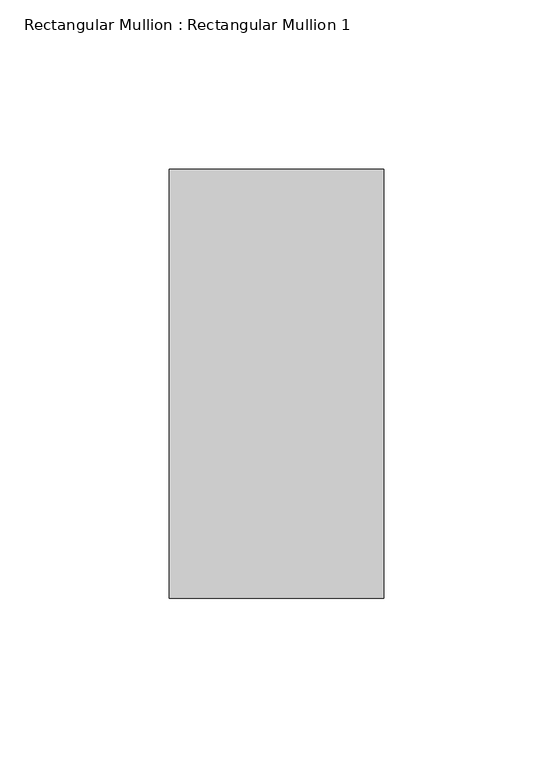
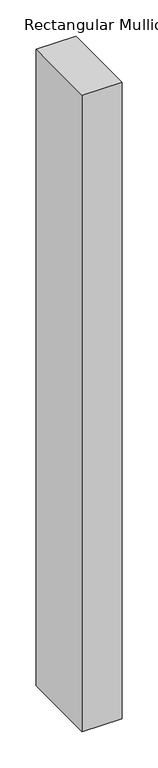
"""IFC4 building model written with IfcOpenShell, lengths in millimetres: member geometry, Rectangular Mullion : Rectangular Mullion 1."""

import ifcopenshell
import ifcopenshell.guid

model = None  # the IFC model being written
_history = None  # IfcOwnerHistory: only IFC2X3 demands one
_inside = {}  # id of a spatial element -> (the spatial element, [elements in it])
_under = {}  # id of a project, library or spatial element -> (it, [spatial elements below it])
_declared = {}  # id of a project -> (the project, [libraries it declares])
_typed = {}  # id of a type object -> (the type object, [elements of that type])
_made_of = {}  # id of a material, layer set ... -> (it, [elements and type objects made of it])


def new_model(schema):
    """Start an empty IFC model of exactly this schema.

    Asked for "IFC4X3", IfcOpenShell would pick the latest addendum, in which some entities
    have other attributes; the version numbers below select the first issue.
    IFC2X3 requires an IfcOwnerHistory on every rooted entity: one is made here for all.
    """
    global model, _history
    if schema == "IFC4X3":
        model = ifcopenshell.file(schema_version=(4, 3, 0, 0))
    else:
        model = ifcopenshell.file(schema=schema)
    _inside.clear()
    _under.clear()
    _declared.clear()
    _typed.clear()
    _made_of.clear()
    _history = None
    if model.schema == "IFC2X3":
        org = make("IfcOrganization", Name="unknown")
        user = make(
            "IfcPersonAndOrganization",
            ThePerson=make("IfcPerson", FamilyName="unknown"),
            TheOrganization=org,
        )
        app = make(
            "IfcApplication",
            ApplicationDeveloper=org,
            Version="unknown",
            ApplicationFullName="unknown",
            ApplicationIdentifier="unknown",
        )
        _history = make(
            "IfcOwnerHistory",
            OwningUser=user,
            OwningApplication=app,
            ChangeAction="ADDED",
            CreationDate=0,
        )
    return model


def make(cls, **values):
    """One entity of the class cls with the attributes given. An attribute that is None is left unset."""
    return model.create_entity(
        cls, **{name: value for name, value in values.items() if value is not None}
    )


def rooted(cls, **values):
    """An entity with a GlobalId (a new one), such as an element, a storey or a relation."""
    return make(cls, GlobalId=ifcopenshell.guid.new(), OwnerHistory=_history, **values)


def si_unit(unit_type, name, prefix=None):
    """IfcSIUnit, for example si_unit("LENGTHUNIT", "METRE", prefix="MILLI")."""
    return make("IfcSIUnit", UnitType=unit_type, Prefix=prefix, Name=name)


def assignment(units):
    """IfcUnitAssignment: the units of a project."""
    return None if units is None else make("IfcUnitAssignment", Units=units)


def point(xyz):
    """IfcCartesianPoint."""
    return None if xyz is None else make("IfcCartesianPoint", Coordinates=xyz)


def direction(xyz):
    """IfcDirection."""
    return None if xyz is None else make("IfcDirection", DirectionRatios=xyz)


def frame(location, z_axis=None, x_axis=None):
    """IfcAxis2Placement3D, a coordinate frame: its origin and axes. An axis left out is left unset."""
    return make(
        "IfcAxis2Placement3D",
        Location=point(location),
        Axis=direction(z_axis),
        RefDirection=direction(x_axis),
    )


def origin():
    """The frame at (0, 0, 0) with its axes left unset."""
    return frame((0.0, 0.0, 0.0))


def place(relative_to, where):
    """IfcLocalPlacement: puts the frame where relative to a parent placement (None: the world)."""
    return make(
        "IfcLocalPlacement", PlacementRelTo=relative_to, RelativePlacement=where
    )


def context(
    kind, dimensions, precision=None, world=None, true_north=None, identifier=None
):
    """IfcGeometricRepresentationContext, for example the 3D "Model" context."""
    return make(
        "IfcGeometricRepresentationContext",
        ContextIdentifier=identifier,
        ContextType=kind,
        CoordinateSpaceDimension=dimensions,
        Precision=precision,
        WorldCoordinateSystem=world,
        TrueNorth=true_north,
    )


def project(units=None, contexts=None):
    """IfcProject with its units and contexts."""
    return rooted(
        "IfcProject",
        Name="project",
        RepresentationContexts=contexts,
        UnitsInContext=assignment(units),
    )


def spatial(cls, under=None, at=None, **own):
    """A site, building, storey or space (cls), placed at a placement, below another one or the project."""
    s = rooted(cls, ObjectPlacement=at, **own)
    if under is not None:
        _under.setdefault(under.id(), (under, []))[1].append(s)
    return s


def polyline(points):
    """IfcPolyline through the points."""
    return make("IfcPolyline", Points=[point(p) for p in points])


def outline(outer, holes=None, kind="AREA"):
    """IfcArbitraryClosedProfileDef: a profile drawn as a closed curve; with holes, ...WithVoids."""
    if holes is None:
        return make("IfcArbitraryClosedProfileDef", ProfileType=kind, OuterCurve=outer)
    return make(
        "IfcArbitraryProfileDefWithVoids",
        ProfileType=kind,
        OuterCurve=outer,
        InnerCurves=holes,
    )


def extrude(swept, where, along, depth):
    """IfcExtrudedAreaSolid: the profile swept, set in the frame where, extruded along a direction by depth."""
    return make(
        "IfcExtrudedAreaSolid",
        SweptArea=swept,
        Position=where,
        ExtrudedDirection=direction(along),
        Depth=depth,
    )


def shape(context_of_items, identifier, shape_type, items):
    """IfcShapeRepresentation: the items that make up one representation, for example the "Body"."""
    return make(
        "IfcShapeRepresentation",
        ContextOfItems=context_of_items,
        RepresentationIdentifier=identifier,
        RepresentationType=shape_type,
        Items=items,
    )


def source(mapping_origin, context_of_items, identifier, shape_type, items):
    """IfcRepresentationMap: a shape defined once, which mapped items show again and again."""
    return make(
        "IfcRepresentationMap",
        MappingOrigin=mapping_origin,
        MappedRepresentation=shape(context_of_items, identifier, shape_type, items),
    )


def transform(
    local_origin,
    x_axis=None,
    y_axis=None,
    z_axis=None,
    scale=None,
    scale2=None,
    scale3=None,
    uniform=True,
):
    """IfcCartesianTransformationOperator3D, or its non-uniform kind. x_axis, y_axis, z_axis: its Axis1, 2, 3."""
    if uniform:
        return make(
            "IfcCartesianTransformationOperator3D",
            Axis1=direction(x_axis),
            Axis2=direction(y_axis),
            LocalOrigin=point(local_origin),
            Scale=scale,
            Axis3=direction(z_axis),
        )
    return make(
        "IfcCartesianTransformationOperator3DnonUniform",
        Axis1=direction(x_axis),
        Axis2=direction(y_axis),
        LocalOrigin=point(local_origin),
        Scale=scale,
        Axis3=direction(z_axis),
        Scale2=scale2,
        Scale3=scale3,
    )


def mapped(mapping_source, mapping_target):
    """IfcMappedItem: shows the shape of a source again, moved by a transform."""
    return make(
        "IfcMappedItem", MappingSource=mapping_source, MappingTarget=mapping_target
    )


def made_of(thing, what):
    """Note that an element or type object is made of a material, layer set ...; save() writes the relation."""
    if what is not None:
        _made_of.setdefault(what.id(), (what, []))[1].append(thing)
    return thing


def element(
    cls,
    number,
    at=None,
    inside=None,
    cuts=None,
    type_object=None,
    material=None,
    context=None,
    identifier="Body",
    shape_type=None,
    held_by="IfcProductDefinitionShape",
    body=None,
    shapes=None,
    **own,
):
    """One element of the class cls, such as IfcWall. Its Tag is "e" and its number.

    at: its placement. inside: the storey or other place that contains it. cuts: it is an
    opening in that element (IfcRelVoidsElement). A single representation is given by context,
    identifier, shape_type and body (its items); several are given by shapes. held_by: the class
    of the entity that holds the representations. save() writes the other relations.
    """
    e = rooted(cls, Tag="e%d" % number, ObjectPlacement=at, **own)
    if body is not None:
        shapes = [shape(context, identifier, shape_type, body)]
    if shapes is not None:
        e.Representation = make(held_by, Representations=shapes)
    if inside is not None:
        _inside.setdefault(inside.id(), (inside, []))[1].append(e)
    if cuts is not None:
        rooted(
            "IfcRelVoidsElement", RelatingBuildingElement=cuts, RelatedOpeningElement=e
        )
    if type_object is not None:
        _typed.setdefault(type_object.id(), (type_object, []))[1].append(e)
    return made_of(e, material)


def aggregate(whole, parts):
    """IfcRelAggregates: a whole, such as a stair, and the parts it consists of."""
    return rooted("IfcRelAggregates", RelatingObject=whole, RelatedObjects=parts)


def save(model, path):
    """Write the relations noted so far, then the file.

    IfcRelAggregates (storeys below a building ...), IfcRelContainedInSpatialStructure (elements
    in a storey), IfcRelDefinesByType, IfcRelAssociatesMaterial and IfcRelDeclares: one each for
    every whole, place, type object, material and project.
    """
    for whole, parts in _under.values():
        aggregate(whole, parts)
    for where, things in _inside.values():
        rooted(
            "IfcRelContainedInSpatialStructure",
            RelatedElements=things,
            RelatingStructure=where,
        )
    for kind, things in _typed.values():
        rooted("IfcRelDefinesByType", RelatedObjects=things, RelatingType=kind)
    for what, things in _made_of.values():
        rooted("IfcRelAssociatesMaterial", RelatedObjects=things, RelatingMaterial=what)
    for by, libraries in _declared.values():
        rooted("IfcRelDeclares", RelatingContext=by, RelatedDefinitions=libraries)
    model.write(path)


def rectangular_mullion_rectangular_mullion_1_2e414231(model_context):
    return source(origin(), model_context, "Body", "SweptSolid", [
        extrude(outline(polyline([(0.0, 63.5), (0.0, -63.5), (-63.5, -63.5), (-63.5, 63.5), (0.0, 63.5)])), frame((0.0, 0.0, -1071.3357143), z_axis=(0.0, 0.0, 1.0), x_axis=(1.0, 0.0, 0.0)), (0.0, 0.0, 1.0), 1071.3357143),
    ])


if __name__ == "__main__":
    model = new_model("IFC4")
    model_context = context("Model", 3, world=origin())
    ifc_project = project(units=[si_unit("LENGTHUNIT", "METRE", prefix="MILLI")], contexts=[model_context])
    site = spatial("IfcSite", under=ifc_project)
    building = spatial("IfcBuilding", under=site)
    placement = place(None, origin())
    rectangular_mullion_rectangular_mullion_1_shape = rectangular_mullion_rectangular_mullion_1_2e414231(model_context)
    element("IfcMember", 1, ObjectType="Rectangular Mullion : Rectangular Mullion 1", at=placement, inside=building, context=model_context, shape_type="MappedRepresentation", body=[
        mapped(rectangular_mullion_rectangular_mullion_1_shape, transform((0.0, 0.0, 0.0), x_axis=(1.0, 0.0, 0.0), y_axis=(0.0, 1.0, 0.0), z_axis=(0.0, 0.0, 1.0))),
    ])
    save(model, "model.ifc")
